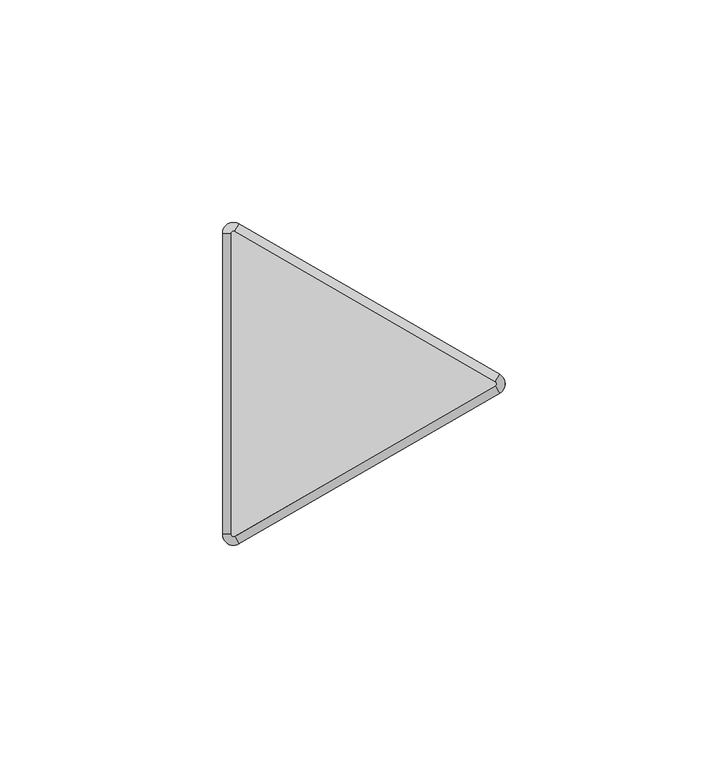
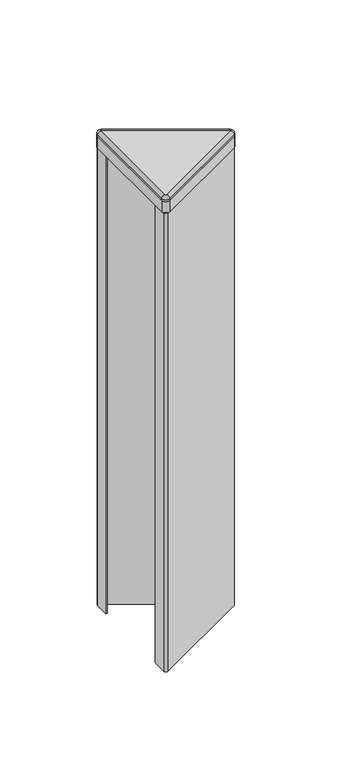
"""IFC4 building model written with IfcOpenShell, lengths in millimetres: furniture geometry, Steelcase - Answer Solution - Panel - 120deg Change-of-Height Trim - Thin : Y Corner - 12H for 66H App."""

from ifc_helpers import new_model, si_unit, point, frame, frame_2d, origin, place, context, project, spatial, polyline, circle_curve, ellipse_curve, trimmed, segment, composite_curve, outline, extrude, source, transform, mapped, element, save
from ifc_brep_helpers import plane_surface, cylinder_surface, revolved_surface, advanced_brep


def furniture_bfd2739f(model_context):
    return source(origin(), model_context, "Body", "SolidModel", [
        advanced_brep(
        [(-10.518645, -37.3335529, 1680.8628978), (-14.2052101, -35.2051135, 1680.8628978), (-14.2052101, -35.2051135, 1679.9164663), (-10.518645, -37.3335529, 1679.9164663), (-11.46175, -35.7000471, 1682.75), (-12.319, -35.2051135, 1682.75), (-11.46175, -35.7000471, 1679.9164663), (-12.319, -35.2051135, 1679.9164663), (48.0429908, -3.5229767, 1679.9164663), (48.0429908, -3.5229767, 1680.8628978), (47.0998858, -1.8894709, 1682.75), (47.0998858, -1.8894709, 1679.9164663), (48.0429908, 0.733902, 1680.8628978), (48.0429908, 0.733902, 1679.9164663), (47.0998858, -0.8996038, 1682.75), (47.0998858, -0.8996038, 1679.9164663), (-10.518645, 34.5444782, 1679.9164663), (-14.2052101, 32.4160388, 1679.9164663), (-11.46175, 32.9109723, 1679.9164663), (-12.319, 32.4160388, 1679.9164663), (-10.518645, 34.5444782, 1680.8628978), (-11.46175, 32.9109723, 1682.75), (-14.2052101, 32.4160388, 1680.8628978), (-12.319, 32.4160388, 1682.75)],
        [
            (0, 1, circle_curve(frame((-11.7475, -35.2051135, 1680.8628978), z_axis=(0.0, 0.0, -1.0), x_axis=(-1.0, 0.0, 0.0)), 2.4577101)),
            (1, 2),
            (2, 3, circle_curve(frame((-11.7475, -35.2051135, 1679.9164663), z_axis=(0.0, 0.0, 1.0), x_axis=(-1.0, 0.0, 0.0)), 2.4577101)),
            (3, 0),
            (4, 5, circle_curve(frame((-11.7475, -35.2051135, 1682.75), z_axis=(0.0, 0.0, -1.0), x_axis=(-1.0, 0.0, 0.0)), 0.5715)),
            (5, 1, circle_curve(frame((-12.3181076, -35.2051135, 1680.8628978), z_axis=(0.0, -1.0, 0.0), x_axis=(1.0, 0.0, 0.0)), 1.8871024)),
            (0, 4, circle_curve(frame((-11.4621962, -35.6992743, 1680.8628978), z_axis=(-0.8660254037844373, -0.5000000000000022, 0.0), x_axis=(-0.5000000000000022, 0.8660254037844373, 0.0)), 1.8871024)),
            (6, 7, circle_curve(frame((-11.7475, -35.2051135, 1679.9164663), z_axis=(0.0, 0.0, -1.0), x_axis=(-1.0, 0.0, 0.0)), 0.5715)),
            (7, 5),
            (4, 6),
            (3, 8),
            (8, 9),
            (9, 0),
            (9, 10, circle_curve(frame((47.0994396, -1.8886981, 1680.8628978), z_axis=(-0.8660254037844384, -0.5000000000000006, 0.0), x_axis=(-0.5000000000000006, 0.8660254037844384, 0.0)), 1.8871024)),
            (10, 4),
            (10, 11),
            (11, 6),
            (12, 9, circle_curve(frame((46.8141358, -1.3945374, 1680.8628978), z_axis=(0.0, 0.0, -1.0), x_axis=(0.4999999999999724, -0.8660254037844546, 0.0)), 2.4577101)),
            (8, 13, circle_curve(frame((46.8141358, -1.3945374, 1679.9164663), z_axis=(0.0, 0.0, 1.0), x_axis=(0.4999999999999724, -0.8660254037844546, 0.0)), 2.4577101)),
            (13, 12),
            (14, 10, circle_curve(frame((46.8141358, -1.3945374, 1682.75), z_axis=(0.0, 0.0, -1.0), x_axis=(0.4999999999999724, -0.8660254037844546, 0.0)), 0.5715)),
            (12, 14, circle_curve(frame((47.0994396, -0.9003766, 1680.8628978), z_axis=(0.8660254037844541, -0.49999999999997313, 0.0), x_axis=(-0.49999999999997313, -0.8660254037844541, 0.0)), 1.8871024)),
            (15, 11, circle_curve(frame((46.8141358, -1.3945374, 1679.9164663), z_axis=(0.0, 0.0, -1.0), x_axis=(0.4999999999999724, -0.8660254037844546, 0.0)), 0.5715)),
            (14, 15),
            (16, 13),
            (2, 17),
            (17, 16, circle_curve(frame((-11.7475, 32.4160388, 1679.9164663), z_axis=(0.0, 0.0, -1.0), x_axis=(0.500000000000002, 0.8660254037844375, 0.0)), 2.4577101)),
            (15, 18),
            (18, 19, circle_curve(frame((-11.7475, 32.4160388, 1679.9164663), z_axis=(0.0, 0.0, 1.0), x_axis=(0.500000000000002, 0.8660254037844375, 0.0)), 0.5715)),
            (19, 7),
            (16, 20),
            (20, 12),
            (20, 21, circle_curve(frame((-11.4621962, 32.9101995, 1680.8628978), z_axis=(0.8660254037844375, -0.5000000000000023, 0.0), x_axis=(-0.5000000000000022, -0.8660254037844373, 0.0)), 1.8871024)),
            (21, 14),
            (21, 18),
            (22, 20, circle_curve(frame((-11.7475, 32.4160388, 1680.8628978), z_axis=(0.0, 0.0, -1.0), x_axis=(0.500000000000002, 0.8660254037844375, 0.0)), 2.4577101)),
            (17, 22),
            (23, 21, circle_curve(frame((-11.7475, 32.4160388, 1682.75), z_axis=(0.0, 0.0, -1.0), x_axis=(0.500000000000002, 0.8660254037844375, 0.0)), 0.5715)),
            (22, 23, circle_curve(frame((-12.3181076, 32.4160388, 1680.8628978), z_axis=(0.0, 1.0, 0.0), x_axis=(1.0, 0.0, 0.0)), 1.8871024)),
            (23, 19),
            (1, 22),
            (5, 23),
        ],
        [
            cylinder_surface(frame((-11.7475, -35.2051135, 0.0), z_axis=(0.0, 0.0, 1.0), x_axis=(-1.0, 0.0, 0.0)), 2.4577101),
            revolved_surface(trimmed(ellipse_curve(frame((-12.3181076, -35.2051135, 1680.8628978), z_axis=(0.0, 1.0, 0.0), x_axis=(1.0, 0.0, 0.0)), 1.8871024, 1.8871024), [point((-14.2052101, -35.2051135, 1680.8628978))], [point((-12.319, -35.2051135, 1682.75))], True, "CARTESIAN"), (-11.7475, -35.2051135, 0.0), (0.0, 0.0, 1.0)),
            revolved_surface(polyline([(-12.319, -35.2051135, 1682.75), (-12.319, -35.2051135, 1679.9164663)]), (-11.7475, -35.2051135, 0.0), (0.0, 0.0, 1.0)),
            plane_surface(frame((-10.518645, -37.3335529, 1679.9164663), z_axis=(0.5000000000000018, -0.8660254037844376, 0.0), x_axis=(0.8660254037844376, 0.5000000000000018, 0.0))),
            cylinder_surface(frame((-11.4621962, -35.6992743, 1680.8628978), z_axis=(-0.8660254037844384, -0.5000000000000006, 0.0), x_axis=(-0.5000000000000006, 0.8660254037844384, 0.0)), 1.8871024),
            plane_surface(frame((-11.46175, -35.7000471, 1682.75), z_axis=(-0.4999999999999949, 0.8660254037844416, 0.0), x_axis=(0.8660254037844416, 0.4999999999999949, 0.0))),
            cylinder_surface(frame((46.8141358, -1.3945374, 0.0), z_axis=(0.0, 0.0, 1.0), x_axis=(0.4999999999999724, -0.8660254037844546, 0.0)), 2.4577101),
            revolved_surface(trimmed(ellipse_curve(frame((47.0994396, -1.8886981, 1680.8628978), z_axis=(-0.8660254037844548, -0.499999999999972, 0.0), x_axis=(-0.499999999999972, 0.8660254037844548, 0.0)), 1.8871024, 1.8871024), [point((48.0429908, -3.5229767, 1680.8628978))], [point((47.0998858, -1.8894709, 1682.75))], True, "CARTESIAN"), (46.8141358, -1.3945374, 0.0), (0.0, 0.0, 1.0)),
            revolved_surface(polyline([(47.09988579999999, -1.8894709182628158, 1682.75), (47.09988579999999, -1.8894709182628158, 1679.9164663)]), (46.8141358, -1.3945374, 0.0), (0.0, 0.0, 1.0)),
            plane_surface(frame((47.0998858, -0.8996038, 1679.9164663), z_axis=(0.0, 0.0, -1.0), x_axis=(-0.8660254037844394, 0.4999999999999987, 0.0))),
            plane_surface(frame((48.0429908, 0.733902, 1679.9164663), z_axis=(0.5000000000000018, 0.8660254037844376, 0.0), x_axis=(-0.8660254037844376, 0.5000000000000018, 0.0))),
            cylinder_surface(frame((47.0994396, -0.9003766, 1680.8628978), z_axis=(0.8660254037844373, -0.5000000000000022, 0.0), x_axis=(-0.5000000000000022, -0.8660254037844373, 0.0)), 1.8871024),
            plane_surface(frame((47.0998858, -0.8996038, 1682.75), z_axis=(-0.4999999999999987, -0.8660254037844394, 0.0), x_axis=(-0.8660254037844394, 0.4999999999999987, 0.0))),
            cylinder_surface(frame((-11.7475, 32.4160388, 0.0), z_axis=(0.0, 0.0, 1.0), x_axis=(0.500000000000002, 0.8660254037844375, 0.0)), 2.4577101),
            revolved_surface(trimmed(ellipse_curve(frame((-11.4621962, 32.9101995, 1680.8628978), z_axis=(0.866025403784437, -0.5000000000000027, 0.0), x_axis=(-0.5000000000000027, -0.866025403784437, 0.0)), 1.8871024, 1.8871024), [point((-10.518645, 34.5444782, 1680.8628978))], [point((-11.46175, 32.9109723, 1682.75))], True, "CARTESIAN"), (-11.7475, 32.4160388, 0.0), (0.0, 0.0, 1.0)),
            revolved_surface(polyline([(-11.461749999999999, 32.91097231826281, 1682.75), (-11.461749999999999, 32.91097231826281, 1679.9164663)]), (-11.7475, 32.4160388, 0.0), (0.0, 0.0, 1.0)),
            plane_surface(frame((-14.2052101, 32.4160388, 1679.9164663), z_axis=(-1.0, 0.0, 0.0), x_axis=(0.0, -1.0, 0.0))),
            cylinder_surface(frame((-12.3181076, 32.4160388, 1680.8628978), z_axis=(0.0, 1.0, 0.0), x_axis=(1.0, 0.0, 0.0)), 1.8871024),
            plane_surface(frame((-12.319, 32.4160388, 1682.75), z_axis=(1.0, 0.0, 0.0), x_axis=(0.0, -1.0, 0.0))),
        ],
        [
            (0, [[1, 2, 3, 4]]),
            (1, [[5, 6, -1, 7]]),
            (2, [[8, 9, -5, 10]]),
            (3, [[-4, 11, 12, 13]]),
            (4, [[-7, -13, 14, 15]]),
            (5, [[-10, -15, 16, 17]]),
            (6, [[18, -12, 19, 20]]),
            (7, [[21, -14, -18, 22]]),
            (8, [[23, -16, -21, 24]]),
            (9, [[25, -19, -11, -3, 26, 27], [-8, -17, -23, 28, 29, 30]]),
            (10, [[-20, -25, 31, 32]]),
            (11, [[-22, -32, 33, 34]]),
            (12, [[-24, -34, 35, -28]]),
            (13, [[36, -31, -27, 37]]),
            (14, [[38, -33, -36, 39]]),
            (15, [[-29, -35, -38, 40]]),
            (16, [[-37, -26, -2, 41]]),
            (17, [[-39, -41, -6, 42]]),
            (18, [[-40, -42, -9, -30]]),
        ],
    ),
        extrude(outline(composite_curve([segment(trimmed(circle_curve(frame_2d((47.9522001, -1.3945374)), 1.2978651), [point((48.6011327, -0.2705532))], [point((48.6011327, -2.5185215))], False, "CARTESIAN"), True, "CONTINUOUS"), segment(polyline([(48.6011327, -2.5185215), (-11.6879343, -37.3264306)]), True, "CONTINUOUS"), segment(trimmed(circle_curve(frame_2d((-12.3300896, -36.2141852)), 1.2843104), [point((-11.6879343, -37.3264306))], [point((-13.6144, -36.2141852))], False, "CARTESIAN"), True, "CONTINUOUS"), segment(polyline([(-13.6144, -36.2141852), (-13.6144, -27.3303775), (-12.7, -27.3303775), (-12.7, -36.8548888), (48.7191304, -1.3945374), (-12.7, 34.0658141), (-12.7, 24.5413027), (-13.6144, 24.5413027), (-13.6144, 33.4106259)]), True, "CONTINUOUS"), segment(trimmed(circle_curve(frame_2d((-12.3217269, 33.4106259)), 1.2926731), [point((-13.6144, 33.4106259))], [point((-11.6753904, 34.5301136))], False, "CARTESIAN"), True, "CONTINUOUS"), segment(polyline([(-11.6753904, 34.5301136), (48.6011327, -0.2705532)]), True, "CONTINUOUS")], self_intersect=False)), frame((0.0, 0.0, 1377.95), z_axis=(0.0, 0.0, 1.0), x_axis=(1.0, 0.0, 0.0)), (0.0, 0.0, 1.0), 294.64),
        extrude(outline(composite_curve([segment(trimmed(circle_curve(frame_2d((46.8261011, -1.3945374)), 0.5655173), [point((47.1088598, -0.904785))], [point((47.1088598, -1.8842897))], False, "CARTESIAN"), True, "CONTINUOUS"), segment(polyline([(47.1088598, -1.8842897), (-11.4505119, -35.6935587)]), True, "CONTINUOUS"), segment(trimmed(circle_curve(frame_2d((-11.7400079, -35.1921369)), 0.5789921), [point((-11.4505119, -35.6935587))], [point((-12.319, -35.1921369))], False, "CARTESIAN"), True, "CONTINUOUS"), segment(polyline([(-12.319, -35.1921369), (-12.319, 32.3985888)]), True, "CONTINUOUS"), segment(trimmed(circle_curve(frame_2d((-11.7374252, 32.3985888)), 0.5815748), [point((-12.319, 32.3985888))], [point((-11.4466378, 32.9022473))], False, "CARTESIAN"), True, "CONTINUOUS"), segment(polyline([(-11.4466378, 32.9022473), (47.1088598, -0.904785)]), True, "CONTINUOUS")], self_intersect=False)), frame((0.0, 0.0, 1679.9164663), z_axis=(0.0, 0.0, 1.0), x_axis=(1.0, 0.0, 0.0)), (0.0, 0.0, 1.0), 2.8335337),
        extrude(outline(composite_curve([segment(trimmed(circle_curve(frame_2d((46.8140443, -1.3945374)), 2.4577558), [point((48.0429222, 0.7339416))], [point((48.0429222, -3.5230163))], False, "CARTESIAN"), True, "CONTINUOUS"), segment(polyline([(48.0429222, -3.5230163), (-10.518058, -37.333214)]), True, "CONTINUOUS"), segment(trimmed(circle_curve(frame_2d((-11.7471087, -35.2044357)), 2.4581014), [point((-10.518058, -37.333214))], [point((-14.2052101, -35.2044357))], False, "CARTESIAN"), True, "CONTINUOUS"), segment(polyline([(-14.2052101, -35.2044357), (-14.2052101, 32.4160388)]), True, "CONTINUOUS"), segment(trimmed(circle_curve(frame_2d((-11.7475, 32.4160388)), 2.4577101), [point((-14.2052101, 32.4160388))], [point((-10.518645, 34.5444782))], False, "CARTESIAN"), True, "CONTINUOUS"), segment(polyline([(-10.518645, 34.5444782), (48.0429222, 0.7339416)]), True, "CONTINUOUS")], self_intersect=False)), frame((0.0, 0.0, 1672.59), z_axis=(0.0, 0.0, 1.0), x_axis=(1.0, 0.0, 0.0)), (0.0, 0.0, 1.0), 7.3264663),
    ])


if __name__ == "__main__":
    model = new_model("IFC4")
    model_context = context("Model", 3, world=origin())
    ifc_project = project(units=[si_unit("LENGTHUNIT", "METRE", prefix="MILLI")], contexts=[model_context])
    site = spatial("IfcSite", under=ifc_project)
    building = spatial("IfcBuilding", under=site)
    placement = place(None, origin())
    furniture_shape = furniture_bfd2739f(model_context)
    element("IfcFurniture", 1, ObjectType="Steelcase - Answer Solution - Panel - 120deg Change-of-Height Trim - Thin : Y Corner - 12H for 66H App", at=placement, inside=building, context=model_context, shape_type="MappedRepresentation", body=[
        mapped(furniture_shape, transform((0.0, 0.0, 0.0), x_axis=(1.0, 0.0, 0.0), y_axis=(0.0, 1.0, 0.0), z_axis=(0.0, 0.0, 1.0))),
    ])
    save(model, "model.ifc")
